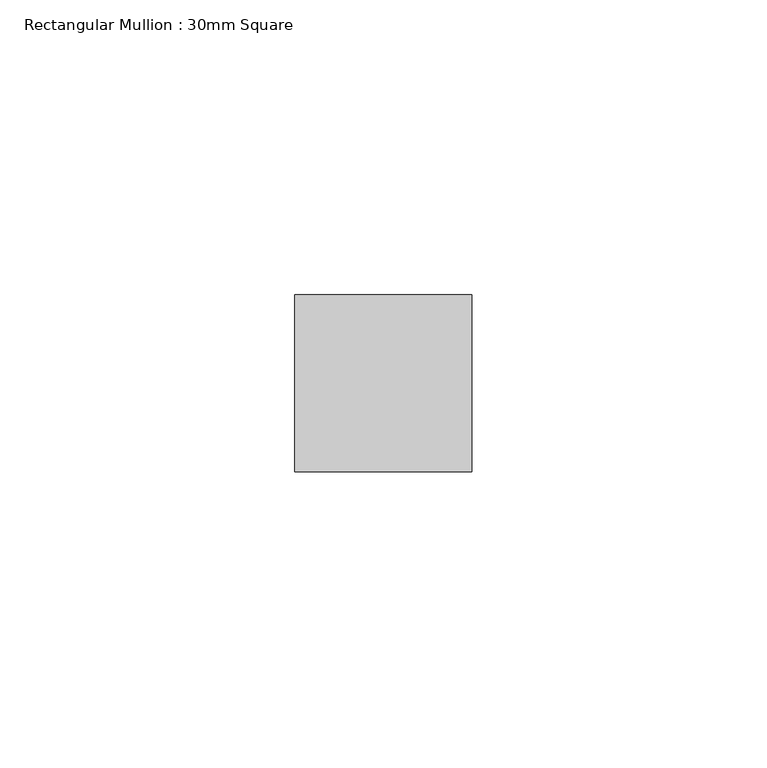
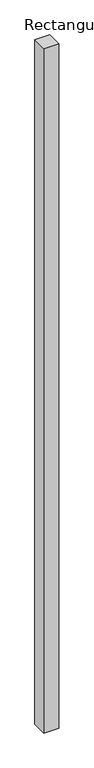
"""IFC4 building model written with IfcOpenShell, lengths in millimetres: member geometry, Rectangular Mullion : 30mm Square."""

from ifc_helpers import new_model, si_unit, frame, origin, place, context, project, spatial, polyline, outline, extrude, source, transform, mapped, element, save


def rectangular_mullion_30mm_square_22a021ac(model_context):
    return source(origin(), model_context, "Body", "SweptSolid", [
        extrude(outline(polyline([(0.0, 15.0), (0.0, -15.0), (-30.0, -15.0), (-30.0, 15.0), (0.0, 15.0)])), frame((0.0, 0.0, -1440.0), z_axis=(0.0, 0.0, 1.0), x_axis=(1.0, 0.0, 0.0)), (0.0, 0.0, 1.0), 1440.0),
    ])


if __name__ == "__main__":
    model = new_model("IFC4")
    model_context = context("Model", 3, world=origin())
    ifc_project = project(units=[si_unit("LENGTHUNIT", "METRE", prefix="MILLI")], contexts=[model_context])
    site = spatial("IfcSite", under=ifc_project)
    building = spatial("IfcBuilding", under=site)
    placement = place(None, origin())
    rectangular_mullion_30mm_square_shape = rectangular_mullion_30mm_square_22a021ac(model_context)
    element("IfcMember", 1, ObjectType="Rectangular Mullion : 30mm Square", at=placement, inside=building, context=model_context, shape_type="MappedRepresentation", body=[
        mapped(rectangular_mullion_30mm_square_shape, transform((0.0, 0.0, 0.0), x_axis=(1.0, 0.0, 0.0), y_axis=(0.0, 1.0, 0.0), z_axis=(0.0, 0.0, 1.0))),
    ])
    save(model, "model.ifc")
